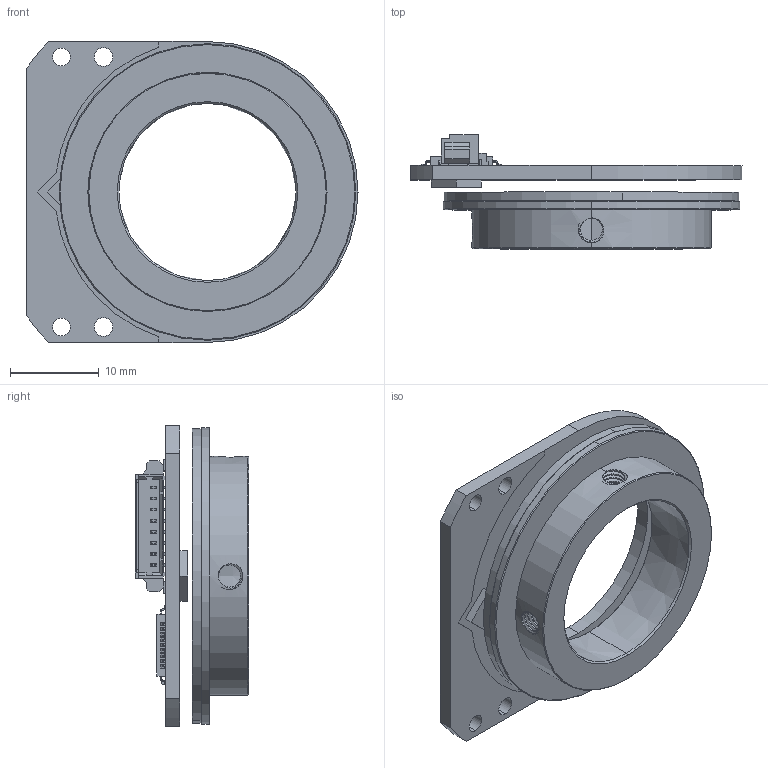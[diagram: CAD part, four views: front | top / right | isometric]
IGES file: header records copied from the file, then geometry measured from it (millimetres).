
Start section: SolidWorks IGES file using analytic representation for surfaces
Global section: file name: C:\Users\Administrator\Desktop\埻唳蜊\20\eCoder_20.IGS,15; native system: HSolidWorks 2021; preprocessor: SolidWorks 2021; author: ZERO; date: 221228.172002; units: millimetre
Bounding box: 37.5 x 12.85 x 34 mm (x, y, z)
Volume: 3571.9 mm3; surface area: 5693.5 mm2
Topology: 4 solids, 4 shells, 967 faces, 2565 edges, 1633 vertices
Faces by surface type: plane 743, revolution 218, bspline 6
